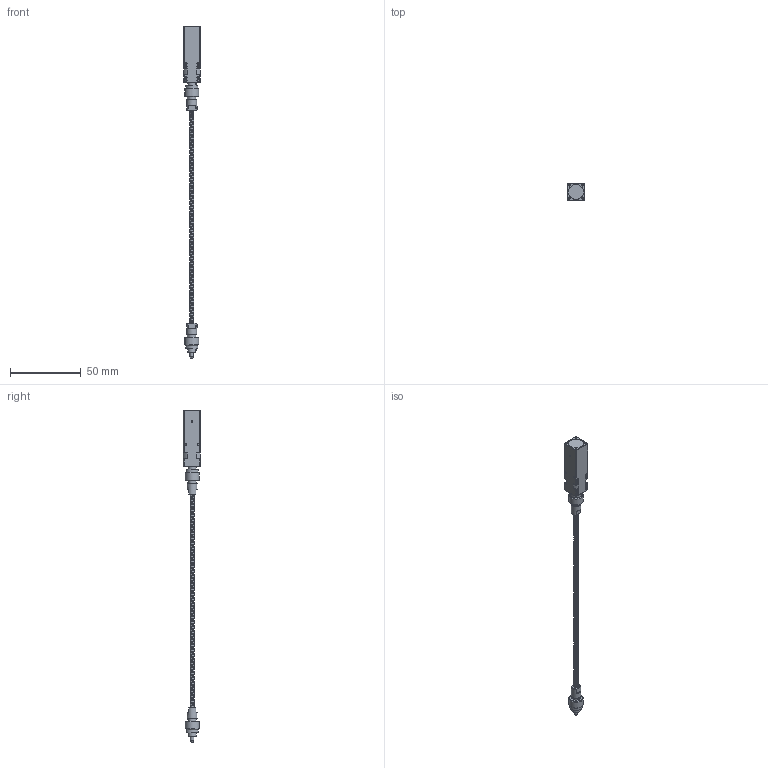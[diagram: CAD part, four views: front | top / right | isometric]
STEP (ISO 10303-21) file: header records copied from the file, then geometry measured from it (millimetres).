
FILE_DESCRIPTION(/* description */ ('IFS2407-4(HT)/VAC'),/* implementation_level */ '2;1');
FILE_NAME(/* name */ '104318_IFS2407-4(HT)_step.stp',/* time_stamp */ '2025-11-21T13:19:33+01:00',/* author */ ('S.Flämig'),/* organization */ (''),/* preprocessor_version */ 'ST-DEVELOPER v20.1',/* originating_system */ 'Autodesk Inventor 2026',/* authorisation */ '');
FILE_SCHEMA (('AUTOMOTIVE_DESIGN { 1 0 10303 214 3 1 1 }'));
Products named in the file (5): 104318_IFS2407-4(HT)_step; 90010378-1CUS_HTFaser; 104336_Fassung; DIN 914 - M2 x 3; Linse
Assembly tree (11 placements, depth 2):
  104318_IFS2407-4(HT)_step
    90010378-1CUS_HTFaser
    104336_Fassung
    DIN 914 - M2 x 3  x8
    Linse
Bounding box: 12 x 12.08 x 234.64 mm (x, y, z)
Volume: 7996.6 mm3; surface area: 9815.6 mm2
Topology: 11 solids, 11 shells, 233 faces, 598 edges, 390 vertices
Faces by surface type: plane 112, cylinder 69, cone 44, bspline 8
Full cylindrical faces by diameter (mm): 1.183 x4, 1.2 x1, 1.5 x4, 1.567 x16, 2 x10, 2.5 x2, 6 x2, 7 x2, 8.8 x2, 10 x2, 10.6 x1, 11.2 x2
Entity records: 42898 total; most frequent: CARTESIAN_POINT 38713, ORIENTED_EDGE 792, DIRECTION 777, EDGE_CURVE 396, AXIS2_PLACEMENT_3D 295, VERTEX_POINT 264, EDGE_LOOP 216, LINE 187
